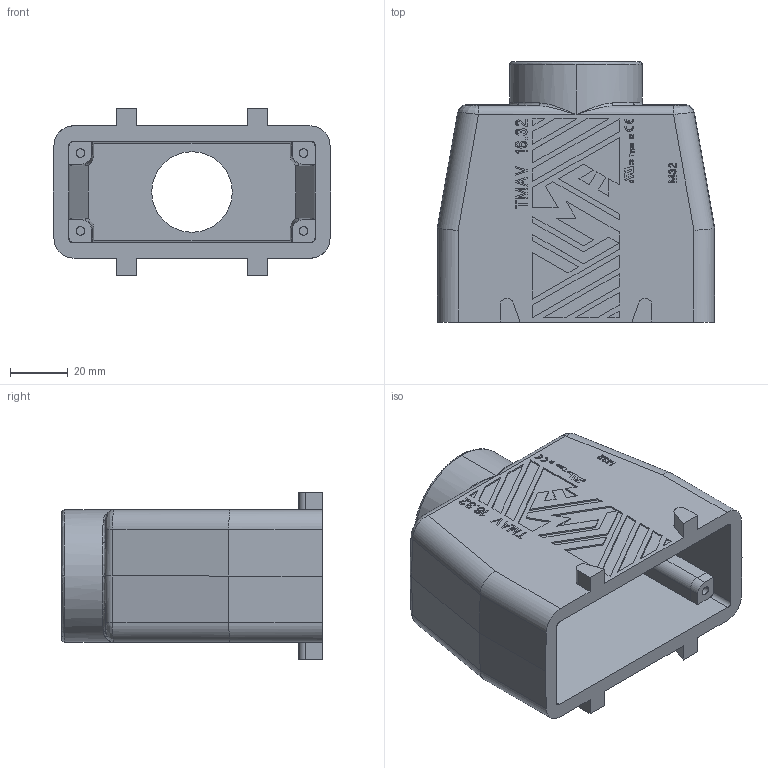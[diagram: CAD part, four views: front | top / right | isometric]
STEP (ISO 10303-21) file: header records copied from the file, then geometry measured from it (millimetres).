
FILE_DESCRIPTION (( 'STEP AP214' ), '1' );
FILE_NAME ('TMAV-16.32.STEP', '2011-10-24T18:40:43', ( '' ), ( '' ), 'SwSTEP 2.0', 'SolidWorks 2011', '' );
FILE_SCHEMA (( 'AUTOMOTIVE_DESIGN' ));
Length unit declared in the file: inch
Products named in the file (1): TMAV-16.32
Bounding box: 96.5 x 90.49 x 58 mm (x, y, z)
Volume: 137345.9 mm3; surface area: 48697.8 mm2
Topology: 1 solids, 5 shells, 1159 faces, 3354 edges, 2224 vertices
Faces by surface type: plane 1007, bspline 74, cylinder 66, cone 12
Entity records: 58704 total; most frequent: CARTESIAN_POINT 13897, ORIENTED_EDGE 6700, DIRECTION 5332, EDGE_CURVE 3350, VECTOR 2914, LINE 2914, VERTEX_POINT 2224, EDGE_LOOP 1216
